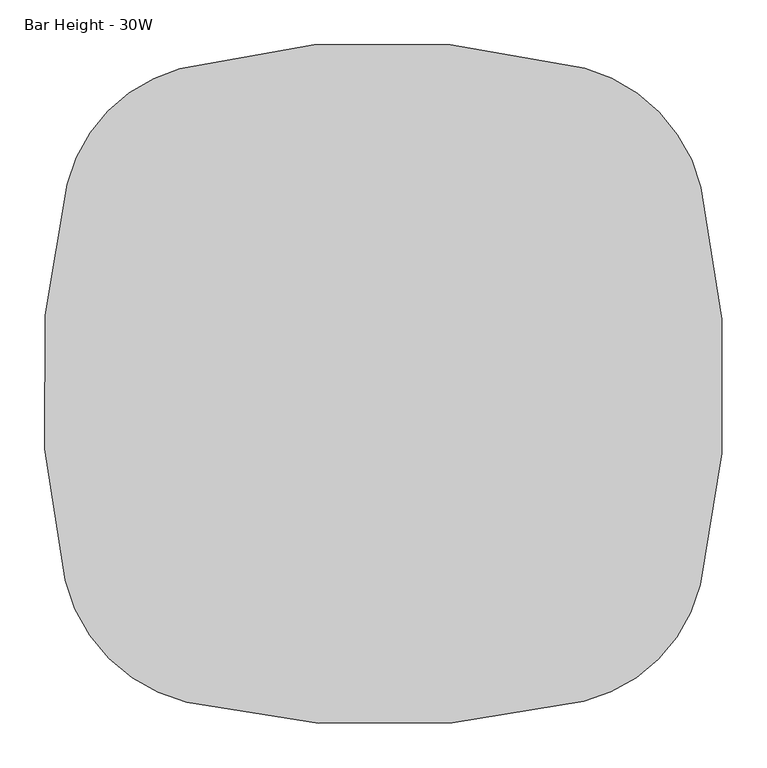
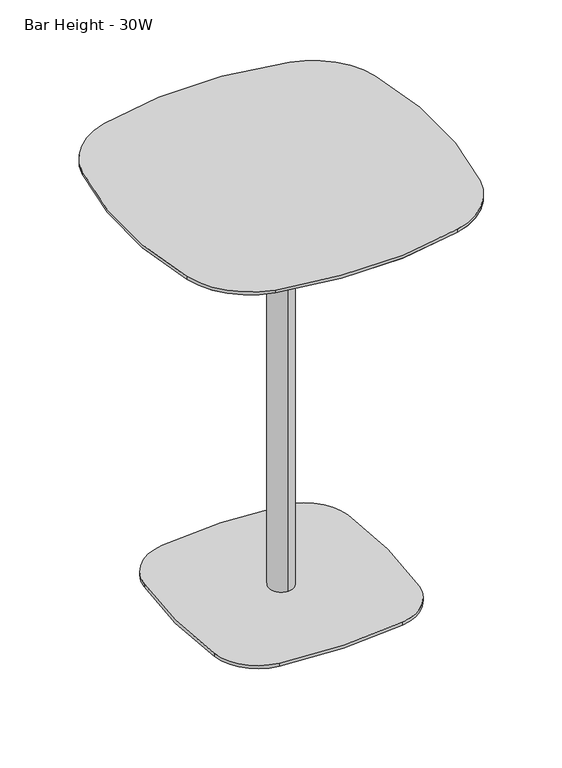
"""IFC4 building model written with IfcOpenShell, lengths in millimetres: furniture geometry, Steelcase Coalesse - Enea Lottus - Table - Cafe : Bar Height - 30W."""

from ifc_helpers import new_model, si_unit, point, frame, frame_2d, origin, origin_with_axes, place, context, project, spatial, polyline, circle_curve, trimmed, segment, composite_curve, outline, extrude, source, transform, mapped, element, save
from ifc_brep_helpers import plane_surface, cylinder_surface, revolved_surface, advanced_brep


def bar_height_30w_13286742(model_context):
    return source(origin(), model_context, "Body", "SolidModel", [
        extrude(outline(composite_curve([segment(trimmed(circle_curve(frame_2d((200.7777941, -200.6143905)), 14.5931535), [point((215.3709476, -200.6143905))], [point((186.1846407, -200.6143905))], False, "CARTESIAN"), True, "CONTINUOUS"), segment(trimmed(circle_curve(frame_2d((200.7777941, -200.6143905)), 14.5931535), [point((186.1846407, -200.6143905))], [point((215.3709476, -200.6143905))], False, "CARTESIAN"), True, "CONTINUOUS")], self_intersect=False)), origin_with_axes(), (0.0, 0.0, 1.0), 12.0681503),
        extrude(outline(composite_curve([segment(trimmed(circle_curve(frame_2d((561.2222059, -200.6143905)), 14.5931535), [point((575.8153593, -200.6143905))], [point((546.6290524, -200.6143905))], False, "CARTESIAN"), True, "CONTINUOUS"), segment(trimmed(circle_curve(frame_2d((561.2222059, -200.6143905)), 14.5931535), [point((546.6290524, -200.6143905))], [point((575.8153593, -200.6143905))], False, "CARTESIAN"), True, "CONTINUOUS")], self_intersect=False)), origin_with_axes(), (0.0, 0.0, 1.0), 12.0681503),
        extrude(outline(composite_curve([segment(trimmed(circle_curve(frame_2d((200.7777941, -561.3856095)), 14.5931535), [point((215.3709476, -561.3856095))], [point((186.1846407, -561.3856095))], False, "CARTESIAN"), True, "CONTINUOUS"), segment(trimmed(circle_curve(frame_2d((200.7777941, -561.3856095)), 14.5931535), [point((186.1846407, -561.3856095))], [point((215.3709476, -561.3856095))], False, "CARTESIAN"), True, "CONTINUOUS")], self_intersect=False)), origin_with_axes(), (0.0, 0.0, 1.0), 12.0681503),
        extrude(outline(composite_curve([segment(trimmed(circle_curve(frame_2d((561.2222059, -561.3856095)), 14.5931535), [point((575.8153593, -561.3856095))], [point((546.6290524, -561.3856095))], False, "CARTESIAN"), True, "CONTINUOUS"), segment(trimmed(circle_curve(frame_2d((561.2222059, -561.3856095)), 14.5931535), [point((546.6290524, -561.3856095))], [point((575.8153593, -561.3856095))], False, "CARTESIAN"), True, "CONTINUOUS")], self_intersect=False)), origin_with_axes(), (0.0, 0.0, 1.0), 12.0681503),
        extrude(outline(composite_curve([segment(trimmed(circle_curve(frame_2d((515.9325388, -246.1682383)), 114.3), [point((531.9555748, -132.9968978))], [point((629.1038793, -230.1452024))], False, "CARTESIAN"), True, "CONTINUOUS"), segment(trimmed(circle_curve(frame_2d((-436.38956, -381.0)), 1076.1196212), [point((629.1038793, -230.1452024))], [point((629.1038793, -531.8547976))], False, "CARTESIAN"), True, "CONTINUOUS"), segment(trimmed(circle_curve(frame_2d((515.9325388, -515.8317617)), 114.3), [point((629.1038793, -531.8547976))], [point((531.9555748, -629.0031022))], False, "CARTESIAN"), True, "CONTINUOUS"), segment(trimmed(circle_curve(frame_2d((381.1007771, 436.4903371)), 1076.1196212), [point((531.9555748, -629.0031022))], [point((232.4349074, -629.3107224))], False, "CARTESIAN"), True, "CONTINUOUS"), segment(trimmed(circle_curve(frame_2d((248.5871485, -513.5136286)), 116.9181843), [point((232.4349074, -629.3107224))], [point((132.7900548, -529.6658697))], False, "CARTESIAN"), True, "CONTINUOUS"), segment(trimmed(circle_curve(frame_2d((1198.5911142, -381.0)), 1076.1196212), [point((132.7900548, -529.6658697))], [point((132.3557192, -235.4818861))], False, "CARTESIAN"), True, "CONTINUOUS"), segment(trimmed(circle_curve(frame_2d((251.8975413, -251.7967642)), 120.65), [point((132.3557192, -235.4818861))], [point((235.5826632, -132.254942))], False, "CARTESIAN"), True, "CONTINUOUS"), segment(trimmed(circle_curve(frame_2d((381.1007771, -1198.4903371)), 1076.1196212), [point((235.5826632, -132.254942))], [point((531.9555748, -132.9968978))], False, "CARTESIAN"), True, "CONTINUOUS")], self_intersect=False)), frame((0.0, 0.0, 12.0681503), z_axis=(0.0, 0.0, 1.0), x_axis=(1.0, 0.0, 0.0)), (0.0, 0.0, 1.0), 7.874),
        advanced_brep(
        [(381.0, -410.8613798, 1030.4223999), (381.0, -351.1386202, 1030.4223999), (381.0, -204.5080839, 1051.1439789), (381.0, -557.4919161, 1051.1439789), (381.0, -381.0, 1030.4223999), (381.0, -557.4919161, 1054.0282142), (381.0, -204.5080839, 1054.0282142), (381.0, -381.0, 1054.0282142)],
        [
            (0, 1, circle_curve(frame((381.0, -381.0, 1030.4223999), z_axis=(0.0, 0.0, 1.0), x_axis=(0.0, 1.0, 0.0)), 29.8613798)),
            (1, 2),
            (2, 3, circle_curve(frame((381.0, -381.0, 1051.1439789), z_axis=(0.0, 0.0, -1.0), x_axis=(0.0, 1.0, 0.0)), 176.4919161)),
            (3, 0),
            (1, 0, circle_curve(frame((381.0, -381.0, 1030.4223999), z_axis=(0.0, 0.0, 1.0), x_axis=(0.0, 1.0, 0.0)), 29.8613798)),
            (3, 2, circle_curve(frame((381.0, -381.0, 1051.1439789), z_axis=(0.0, 0.0, -1.0), x_axis=(0.0, 1.0, 0.0)), 176.4919161)),
            (4, 1),
            (0, 4),
            (5, 6, circle_curve(frame((381.0, -381.0, 1054.0282142), z_axis=(0.0, 0.0, 1.0), x_axis=(0.0, 1.0, 0.0)), 176.4919161)),
            (6, 7),
            (7, 5),
            (6, 5, circle_curve(frame((381.0, -381.0, 1054.0282142), z_axis=(0.0, 0.0, 1.0), x_axis=(0.0, 1.0, 0.0)), 176.4919161)),
            (2, 6),
            (5, 3),
        ],
        [
            revolved_surface(polyline([(381.0, -204.5080839, 1051.1439789), (381.0, -351.1386202, 1030.4223999)]), (381.0, -381.0, 1042.225307), (0.0, 0.0, -1.0)),
            plane_surface(frame((381.0, -381.0, 1030.4223999), z_axis=(0.0, 0.0, -1.0), x_axis=(0.0, 1.0, 0.0))),
            plane_surface(frame((381.0, -381.0, 1054.0282142), z_axis=(0.0, 0.0, 1.0), x_axis=(0.0, 1.0, 0.0))),
            cylinder_surface(frame((381.0, -381.0, 1042.225307), z_axis=(0.0, 0.0, -1.0), x_axis=(0.0, 1.0, 0.0)), 176.4919161),
        ],
        [
            (0, [[1, 2, 3, 4]]),
            (0, [[5, -4, 6, -2]]),
            (1, [[7, -1, 8]]),
            (1, [[-8, -5, -7]]),
            (2, [[9, 10, 11]]),
            (2, [[12, -11, -10]]),
            (3, [[-3, 13, -9, 14]]),
            (3, [[-6, -14, -12, -13]]),
        ],
    ),
        extrude(outline(composite_curve([segment(trimmed(circle_curve(frame_2d((562.041712, -562.0364102)), 177.8), [point((734.6444668, -604.711099))], [point((604.6348721, -734.6593018))], False, "CARTESIAN"), True, "CONTINUOUS"), segment(trimmed(circle_curve(frame_2d((381.0008599, 171.6916196)), 933.5331618), [point((604.6348721, -734.6593018))], [point((161.353241, -735.6336185))], False, "CARTESIAN"), True, "CONTINUOUS"), segment(trimmed(circle_curve(frame_2d((204.6812241, -556.6534286)), 184.15), [point((161.353241, -735.6336185))], [point((25.5793002, -599.4754249))], False, "CARTESIAN"), True, "CONTINUOUS"), segment(trimmed(circle_curve(frame_2d((933.155194, -382.4804828)), 933.1563685), [point((25.5793002, -599.4754249))], [point((27.6449109, -157.0210958))], False, "CARTESIAN"), True, "CONTINUOUS"), segment(trimmed(circle_curve(frame_2d((200.1773329, -199.9792541)), 177.8), [point((27.6449109, -157.0210958))], [point((153.624409, -28.3818611))], False, "CARTESIAN"), True, "CONTINUOUS"), segment(trimmed(circle_curve(frame_2d((380.6603729, -865.2525935)), 867.1204944), [point((153.624409, -28.3818611))], [point((605.7217641, -27.8486755))], False, "CARTESIAN"), True, "CONTINUOUS"), segment(trimmed(circle_curve(frame_2d((558.421215, -203.8436115)), 182.2403891), [point((605.7217641, -27.8486755))], [point((735.5022847, -160.7872045))], False, "CARTESIAN"), True, "CONTINUOUS"), segment(trimmed(circle_curve(frame_2d((-170.1816478, -380.9998789)), 932.0713533), [point((735.5022847, -160.7872045))], [point((734.6444668, -604.711099))], False, "CARTESIAN"), True, "CONTINUOUS")], self_intersect=False)), frame((0.0, 0.0, 1059.247009), z_axis=(0.0, 0.0, 1.0), x_axis=(1.0, 0.0, 0.0)), (0.0, 0.0, 1.0), 7.552991),
        extrude(outline(composite_curve([segment(trimmed(circle_curve(frame_2d((381.0, -381.0)), 29.8613798), [point((381.0, -410.8613798))], [point((381.0, -351.1386202))], False, "CARTESIAN"), True, "CONTINUOUS"), segment(trimmed(circle_curve(frame_2d((381.0, -381.0)), 29.8613798), [point((381.0, -351.1386202))], [point((381.0, -410.8613798))], False, "CARTESIAN"), True, "CONTINUOUS")], self_intersect=False)), frame((0.0, 0.0, 19.9421503), z_axis=(0.0, 0.0, 1.0), x_axis=(1.0, 0.0, 0.0)), (0.0, 0.0, 1.0), 1010.4802496),
        advanced_brep(
        [(601.5925035, -722.3290953, 1054.0282142), (164.3413778, -723.2901571, 1054.0282142), (37.931157, -596.5221838, 1054.0282142), (39.9686554, -160.0895356, 1054.0282142), (156.9496179, -40.6388177, 1054.0282142), (602.4254752, -40.1134413, 1054.0282142), (723.1618283, -163.7877269, 1054.0282142), (722.3156986, -601.6629069, 1054.0282142), (604.6348721, -734.6593018, 1059.247009), (734.6444668, -604.711099, 1059.247009), (735.5022847, -160.7872045, 1059.247009), (605.7217641, -27.8486755, 1059.247009), (153.624409, -28.3818611, 1059.247009), (27.6449109, -157.0210958, 1059.247009), (25.5793002, -599.4754249, 1059.247009), (161.353241, -735.6336185, 1059.247009)],
        [
            (0, 1, circle_curve(frame((381.0008599, 171.6916196, 1054.0282142), z_axis=(0.0, 0.0, -1.0), x_axis=(0.2395565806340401, -0.9708824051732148, 0.0)), 920.8331618)),
            (1, 2, circle_curve(frame((204.6812241, -556.6534286, 1054.0282142), z_axis=(0.0, 0.0, -1.0), x_axis=(-0.23528635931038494, -0.9719260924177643, 0.0)), 171.45)),
            (2, 3, circle_curve(frame((933.155194, -382.4804828, 1054.0282142), z_axis=(0.0, 0.0, -1.0), x_axis=(-0.9725871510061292, -0.23253867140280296, 0.0)), 920.4563685)),
            (3, 4, circle_curve(frame((200.1773329, -199.9792541, 1054.0282142), z_axis=(0.0, 0.0, -1.0), x_axis=(-0.9703735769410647, 0.24160943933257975, 0.0)), 165.1)),
            (4, 5, circle_curve(frame((380.6603729, -865.2525935, 1054.0282142), z_axis=(0.0, 0.0, -1.0), x_axis=(-0.26182746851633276, 0.9651146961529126, 0.0)), 854.4204944)),
            (5, 6, circle_curve(frame((558.421215, -203.8436115, 1054.0282142), z_axis=(0.0, 0.0, -1.0), x_axis=(0.2595503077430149, 0.9657295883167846, 0.0)), 169.5403891)),
            (6, 7, circle_curve(frame((-170.1816478, -380.9998789, 1054.0282142), z_axis=(0.0, 0.0, -1.0), x_axis=(0.9716894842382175, 0.2362616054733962, 0.0)), 919.3713533)),
            (7, 0, circle_curve(frame((562.041712, -562.0364102, 1054.0282142), z_axis=(0.0, 0.0, -1.0), x_axis=(0.9707691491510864, -0.24001512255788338, 0.0)), 165.1)),
            (8, 9, circle_curve(frame((562.041712, -562.0364102, 1059.247009), z_axis=(0.0, 0.0, 1.0), x_axis=(0.9707691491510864, -0.24001512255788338, 0.0)), 177.8)),
            (9, 10, circle_curve(frame((-170.1816478, -380.9998789, 1059.247009), z_axis=(0.0, 0.0, 1.0), x_axis=(0.9716894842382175, 0.2362616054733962, 0.0)), 932.0713533)),
            (10, 11, circle_curve(frame((558.421215, -203.8436115, 1059.247009), z_axis=(0.0, 0.0, 1.0), x_axis=(0.2595503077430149, 0.9657295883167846, 0.0)), 182.2403891)),
            (11, 12, circle_curve(frame((380.6603729, -865.2525935, 1059.247009), z_axis=(0.0, 0.0, 1.0), x_axis=(-0.26182746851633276, 0.9651146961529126, 0.0)), 867.1204944)),
            (12, 13, circle_curve(frame((200.1773329, -199.9792541, 1059.247009), z_axis=(0.0, 0.0, 1.0), x_axis=(-0.9703735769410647, 0.24160943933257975, 0.0)), 177.8)),
            (13, 14, circle_curve(frame((933.155194, -382.4804828, 1059.247009), z_axis=(0.0, 0.0, 1.0), x_axis=(-0.9725871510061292, -0.23253867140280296, 0.0)), 933.1563685)),
            (14, 15, circle_curve(frame((204.6812241, -556.6534286, 1059.247009), z_axis=(0.0, 0.0, 1.0), x_axis=(-0.23528635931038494, -0.9719260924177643, 0.0)), 184.15)),
            (15, 8, circle_curve(frame((381.0008599, 171.6916196, 1059.247009), z_axis=(0.0, 0.0, 1.0), x_axis=(0.2395565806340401, -0.9708824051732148, 0.0)), 933.5331618)),
            (15, 1),
            (0, 8),
            (14, 2),
            (13, 3),
            (12, 4),
            (11, 5),
            (10, 6),
            (9, 7),
        ],
        [
            plane_surface(frame((381.0857892, -381.0542331, 1054.0282142), z_axis=(0.0, 0.0, -1.0000000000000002), x_axis=(-0.23626160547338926, 0.9716894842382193, 0.0))),
            plane_surface(frame((381.0881561, -381.0647851, 1059.247009), z_axis=(0.0, 0.0, 1.0000000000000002), x_axis=(-0.23626160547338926, 0.9716894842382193, 0.0))),
            revolved_surface(polyline([(601.5925035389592, -722.3290953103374, 1054.0282142), (604.6348721, -734.6593018, 1059.247009)]), (381.0008599, 171.6916196, 675.6314159), (0.0, 0.0, 1.0)),
            revolved_surface(polyline([(164.34137775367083, -723.2901571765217, 1054.0282142), (161.353241, -735.6336185, 1059.247009)]), (204.6812241, -556.6534286, 983.5744841), (0.0, 0.0, 1.0)),
            revolved_surface(polyline([(37.93115696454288, -596.5221837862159, 1054.0282142), (25.579300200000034, -599.4754249, 1059.247009)]), (933.155194, -382.4804828, 675.7862512), (0.0, 0.0, 1.0)),
            revolved_surface(polyline([(39.968655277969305, -160.08953566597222, 1054.0282142), (27.644910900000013, -157.0210958, 1059.247009)]), (200.1773329, -199.9792541, 986.1838815), (0.0, 0.0, 1.0)),
            revolved_surface(polyline([(156.9496178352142, -40.63881768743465, 1054.0282142), (153.624409, -28.381861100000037, 1059.247009)]), (380.6603729, -865.2525935, 702.9222888), (0.0, 0.0, 1.0)),
            revolved_surface(polyline([(602.425475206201, -40.113441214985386, 1054.0282142), (605.7217641, -27.848675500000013, 1059.247009)]), (558.421215, -203.8436115, 984.359198), (0.0, 0.0, 1.0)),
            revolved_surface(polyline([(723.1618283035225, -163.787726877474, 1054.0282142), (735.5022847, -160.7872045, 1059.247009)]), (-170.1816478, -380.9998789, 676.2321151), (0.0, 0.0, 1.0)),
            revolved_surface(polyline([(722.3156986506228, -601.6629069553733, 1054.0282142), (734.6444668, -604.711099, 1059.247009)]), (562.041712, -562.0364102, 986.1838815), (0.0, 0.0, 1.0)),
        ],
        [
            (0, [[1, 2, 3, 4, 5, 6, 7, 8]]),
            (1, [[9, 10, 11, 12, 13, 14, 15, 16]]),
            (2, [[-16, 17, -1, 18]]),
            (3, [[-15, 19, -2, -17]]),
            (4, [[-14, 20, -3, -19]]),
            (5, [[-13, 21, -4, -20]]),
            (6, [[-12, 22, -5, -21]]),
            (7, [[-11, 23, -6, -22]]),
            (8, [[-10, 24, -7, -23]]),
            (9, [[-9, -18, -8, -24]]),
        ],
    ),
    ])


if __name__ == "__main__":
    model = new_model("IFC4")
    model_context = context("Model", 3, world=origin())
    ifc_project = project(units=[si_unit("LENGTHUNIT", "METRE", prefix="MILLI")], contexts=[model_context])
    site = spatial("IfcSite", under=ifc_project)
    building = spatial("IfcBuilding", under=site)
    placement = place(None, origin())
    bar_height_30w_shape = bar_height_30w_13286742(model_context)
    element("IfcFurniture", 1, ObjectType="Steelcase Coalesse - Enea Lottus - Table - Cafe : Bar Height - 30W", at=placement, inside=building, context=model_context, shape_type="MappedRepresentation", body=[
        mapped(bar_height_30w_shape, transform((0.0, 0.0, 0.0), x_axis=(1.0, 0.0, 0.0), y_axis=(0.0, 1.0, 0.0), z_axis=(0.0, 0.0, 1.0))),
    ])
    save(model, "model.ifc")
